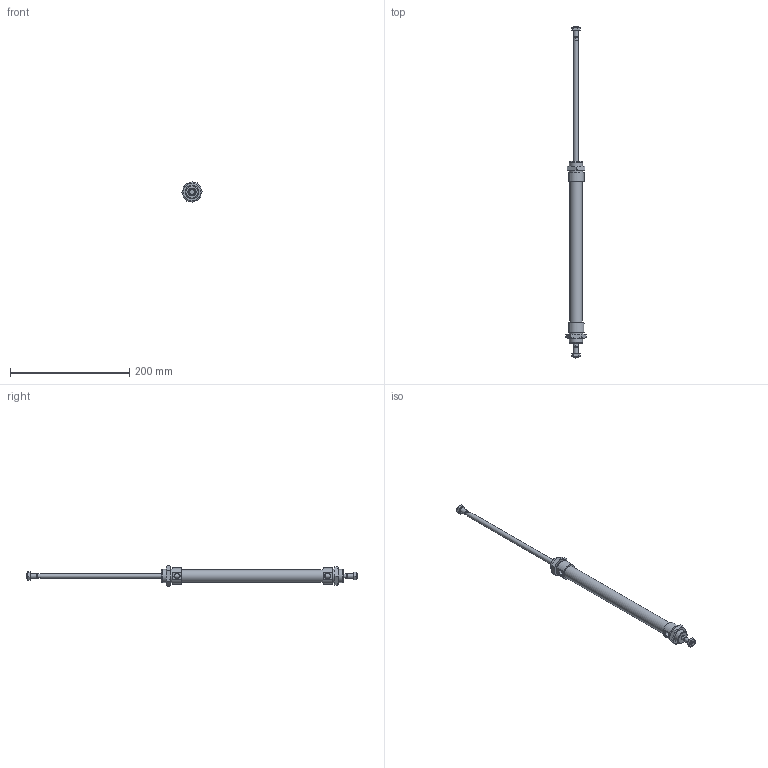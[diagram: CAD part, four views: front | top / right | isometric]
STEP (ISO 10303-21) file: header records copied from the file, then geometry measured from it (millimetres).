
FILE_DESCRIPTION((''),'2;1');
FILE_NAME('I:\Area Tecnica\Disegni\VARIE-3D\Componenti\1280\1282_##_####_#\1282_20_0200.iam.stp','2009-06-03T15:25:29',(''),(''),'Autodesk Inventor 2010','Autodesk Inventor 2010','');
FILE_SCHEMA(('AUTOMOTIVE_DESIGN { 1 0 10303 214 1 1 1 1 }'));
Length unit declared in the file: millimetre
Products named in the file (5): 1282_20_0200; C1282_20_200; S1282_20_200; 1200_20_05; 1200_20_06
Assembly tree (6 placements, depth 2):
  1282_20_0200
    C1282_20_200
    S1282_20_200
    1200_20_05  x2
    1200_20_06  x2
Bounding box: 34.64 x 556 x 34.64 mm (x, y, z)
Volume: 133319.6 mm3; surface area: 49190.2 mm2
Topology: 6 solids, 6 shells, 141 faces, 309 edges, 184 vertices
Faces by surface type: plane 60, cone 52, bspline 18, cylinder 11
Full cylindrical faces by diameter (mm): 6.5 x2, 8 x4, 21.2 x1, 22 x2
Entity records: 2813 total; most frequent: CARTESIAN_POINT 727, DIRECTION 386, ORIENTED_EDGE 352, EDGE_CURVE 176, AXIS2_PLACEMENT_3D 169, EDGE_LOOP 132, VERTEX_POINT 116, STYLED_ITEM 99
